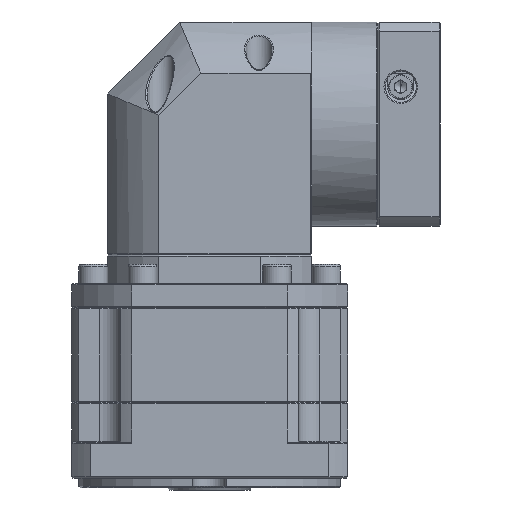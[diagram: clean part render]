
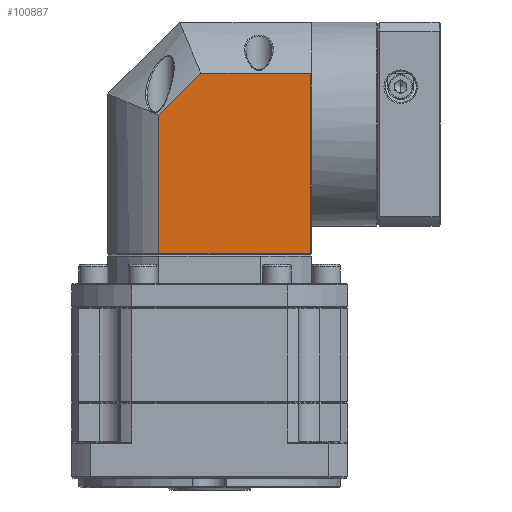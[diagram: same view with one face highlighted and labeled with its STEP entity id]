
A CAD part, front view. The second image highlights one B-rep face of the part: STEP entity #100887.
In plain terms, the highlighted planar face has unit normal (0, -1, 0).
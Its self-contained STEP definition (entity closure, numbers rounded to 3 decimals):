
#1234 = AXIS2_PLACEMENT_3D ( 'NONE', #59483, #155785, #73354 ) ;
#2504 = PLANE ( 'NONE',  #1234 ) ;
#5507 = DIRECTION ( 'NONE',  ( 1., 0., 0. ) ) ;
#21097 = VERTEX_POINT ( 'NONE', #116525 ) ;
#22076 = VERTEX_POINT ( 'NONE', #152301 ) ;
#22853 = EDGE_CURVE ( 'NONE', #72181, #22076, #65678, .T. ) ;
#29085 = VECTOR ( 'NONE', #64421, 1000. ) ;
#32158 = LINE ( 'NONE', #171402, #64425 ) ;
#33281 = CARTESIAN_POINT ( 'NONE',  ( 25.319, 106.509, 53.318 ) ) ;
#34044 = CARTESIAN_POINT ( 'NONE',  ( 89.032, 106.509, -4.365 ) ) ;
#42138 = VERTEX_POINT ( 'NONE', #97964 ) ;
#47858 = DIRECTION ( 'NONE',  ( 1., 0., 0. ) ) ;
#50100 = FACE_OUTER_BOUND ( 'NONE', #69999, .T. ) ;
#50643 = VERTEX_POINT ( 'NONE', #114551 ) ;
#51984 = EDGE_CURVE ( 'NONE', #50643, #22076, #106468, .T. ) ;
#59483 = CARTESIAN_POINT ( 'NONE',  ( 89.032, 106.509, 92.135 ) ) ;
#64421 = DIRECTION ( 'NONE',  ( 0., 0., -1. ) ) ;
#64425 = VECTOR ( 'NONE', #5507, 1000. ) ;
#65678 = LINE ( 'NONE', #90927, #29085 ) ;
#69999 = EDGE_LOOP ( 'NONE', ( #92843, #119065, #83111, #131465, #168198 ) ) ;
#71235 = LINE ( 'NONE', #149166, #144408 ) ;
#72181 = VERTEX_POINT ( 'NONE', #164198 ) ;
#73354 = DIRECTION ( 'NONE',  ( -1., 0., 0. ) ) ;
#75842 = EDGE_CURVE ( 'NONE', #50643, #21097, #71235, .T. ) ;
#83111 = ORIENTED_EDGE ( 'NONE', *, *, #172601, .F. ) ;
#90927 = CARTESIAN_POINT ( 'NONE',  ( 88.532, 106.509, 92.135 ) ) ;
#92843 = ORIENTED_EDGE ( 'NONE', *, *, #51984, .T. ) ;
#97964 = CARTESIAN_POINT ( 'NONE',  ( 42.85, 106.509, 70.848 ) ) ;
#100887 = ADVANCED_FACE ( 'NONE', ( #50100 ), #2504, .F. ) ;
#106468 = LINE ( 'NONE', #34044, #175362 ) ;
#108381 = EDGE_CURVE ( 'NONE', #21097, #42138, #128582, .T. ) ;
#114551 = CARTESIAN_POINT ( 'NONE',  ( 25.319, 106.509, -4.365 ) ) ;
#116525 = CARTESIAN_POINT ( 'NONE',  ( 25.319, 106.509, 53.318 ) ) ;
#119065 = ORIENTED_EDGE ( 'NONE', *, *, #22853, .F. ) ;
#128582 = LINE ( 'NONE', #33281, #160963 ) ;
#129459 = DIRECTION ( 'NONE',  ( 0.707, 0., 0.707 ) ) ;
#131465 = ORIENTED_EDGE ( 'NONE', *, *, #108381, .F. ) ;
#144408 = VECTOR ( 'NONE', #174485, 1000. ) ;
#149166 = CARTESIAN_POINT ( 'NONE',  ( 25.319, 106.509, 92.135 ) ) ;
#152301 = CARTESIAN_POINT ( 'NONE',  ( 88.532, 106.509, -4.365 ) ) ;
#155785 = DIRECTION ( 'NONE',  ( 0., 1., 0. ) ) ;
#160963 = VECTOR ( 'NONE', #129459, 1000. ) ;
#164198 = CARTESIAN_POINT ( 'NONE',  ( 88.532, 106.509, 70.848 ) ) ;
#168198 = ORIENTED_EDGE ( 'NONE', *, *, #75842, .F. ) ;
#171402 = CARTESIAN_POINT ( 'NONE',  ( 89.032, 106.509, 70.848 ) ) ;
#172601 = EDGE_CURVE ( 'NONE', #42138, #72181, #32158, .T. ) ;
#174485 = DIRECTION ( 'NONE',  ( 0., 0., 1. ) ) ;
#175362 = VECTOR ( 'NONE', #47858, 1000. ) ;
